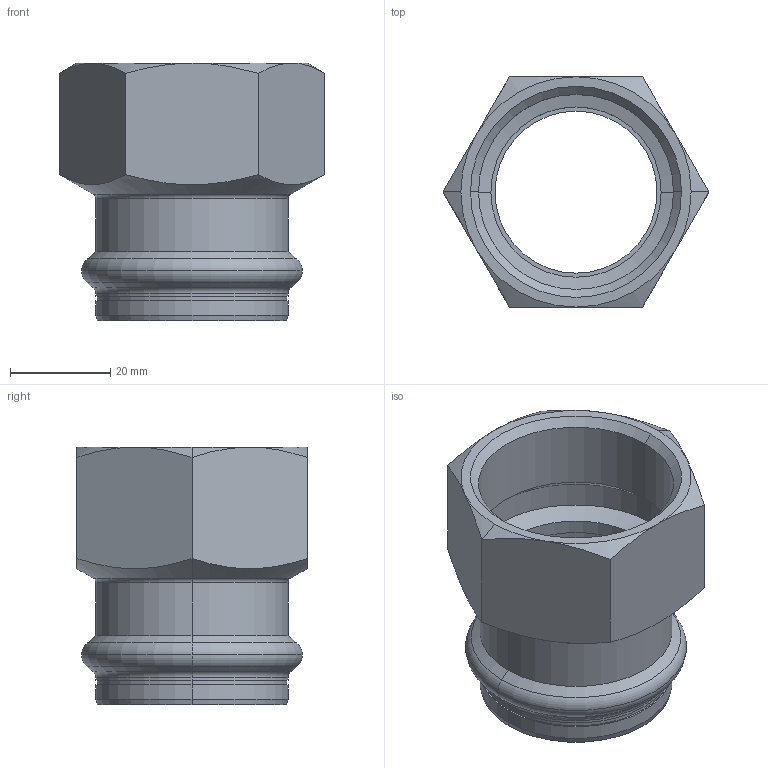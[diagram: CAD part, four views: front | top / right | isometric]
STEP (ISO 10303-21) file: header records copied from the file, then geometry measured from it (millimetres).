
FILE_DESCRIPTION(('CoCreate Modeling STEP Export'),'2;1');
FILE_NAME('8270GVW35114.stp','2013-03-05T11:14:33',(''),(''),'CoCreate Modeling STEP processor for AP214 (Solid Model)','CoCreate Modeling 17.00A 17-Jun-2010 (C) Parametric Technology GmbH','');
FILE_SCHEMA(('AUTOMOTIVE_DESIGN { 1 0 10303 214 1 1 1 1 }'));
Length unit declared in the file: millimetre
Products named in the file (2): 8270GVW35114
Assembly tree (1 placements, depth 2):
  8270GVW35114
    8270GVW35114
Bounding box: 53.12 x 46 x 51.5 mm (x, y, z)
Volume: 21922.3 mm3; surface area: 15389.7 mm2
Topology: 1 solids, 1 shells, 66 faces, 138 edges, 78 vertices
Faces by surface type: cone 26, cylinder 20, plane 12, torus 8
Entity records: 2383 total; most frequent: CARTESIAN_POINT 1152, ORIENTED_EDGE 276, DIRECTION 194, EDGE_CURVE 138, VERTEX_POINT 78, AXIS2_PLACEMENT_3D 74, EDGE_LOOP 72, FACE_OUTER_BOUND 66
